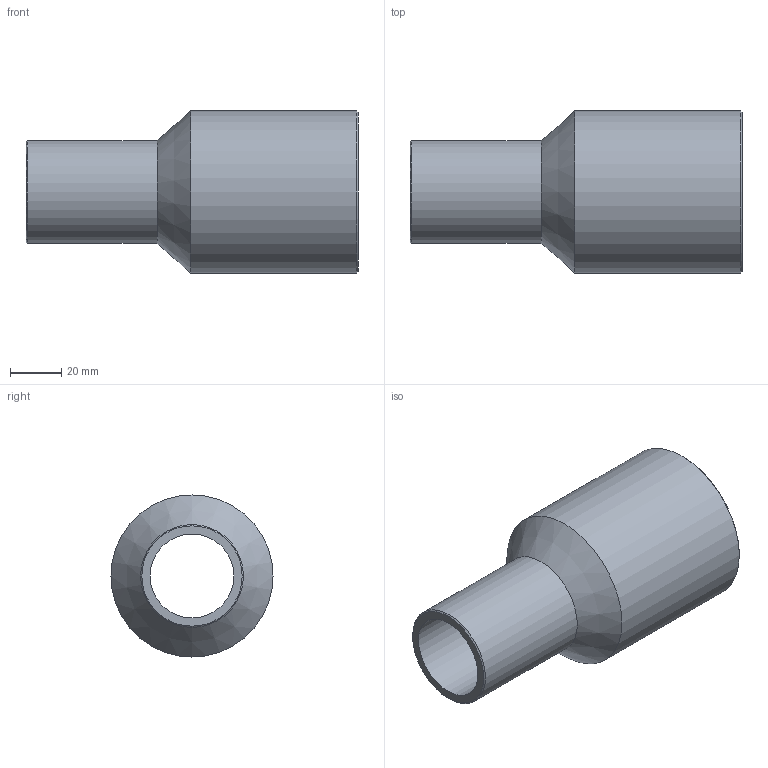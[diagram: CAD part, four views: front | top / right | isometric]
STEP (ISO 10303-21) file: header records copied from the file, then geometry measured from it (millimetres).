
FILE_DESCRIPTION(/* description */ ('Unknown'),/* implementation_level */ '2;1');
FILE_NAME(/* name */ 'RP063040C',/* time_stamp */ '2021-09-17T14:59:52+02:00',/* author */ ('Unknown'),/* organization */ ('Unknown'),/* preprocessor_version */ 'ST-DEVELOPER v16.7',/* originating_system */ 'Solid Edge',/* authorisation */ 'Unknown');
FILE_SCHEMA (('AUTOMOTIVE_DESIGN {1 0 10303 214 3 1 1}'));
Length unit declared in the file: millimetre
Products named in the file (1): RP063040C
Bounding box: 129 x 63 x 63 mm (x, y, z)
Volume: 107218.9 mm3; surface area: 40828.3 mm2
Topology: 1 solids, 1 shells, 10 faces, 19 edges, 11 vertices
Faces by surface type: cylinder 4, cone 4, plane 2
Full cylindrical faces by diameter (mm): 32.6 x1, 40 x1, 51.4 x1, 63 x1
Entity records: 238 total; most frequent: DIRECTION 42, CARTESIAN_POINT 31, AXIS2_PLACEMENT_3D 21, ORIENTED_EDGE 20, EDGE_LOOP 20, FACE_BOUND 20, EDGE_CURVE 10, VERTEX_POINT 10
